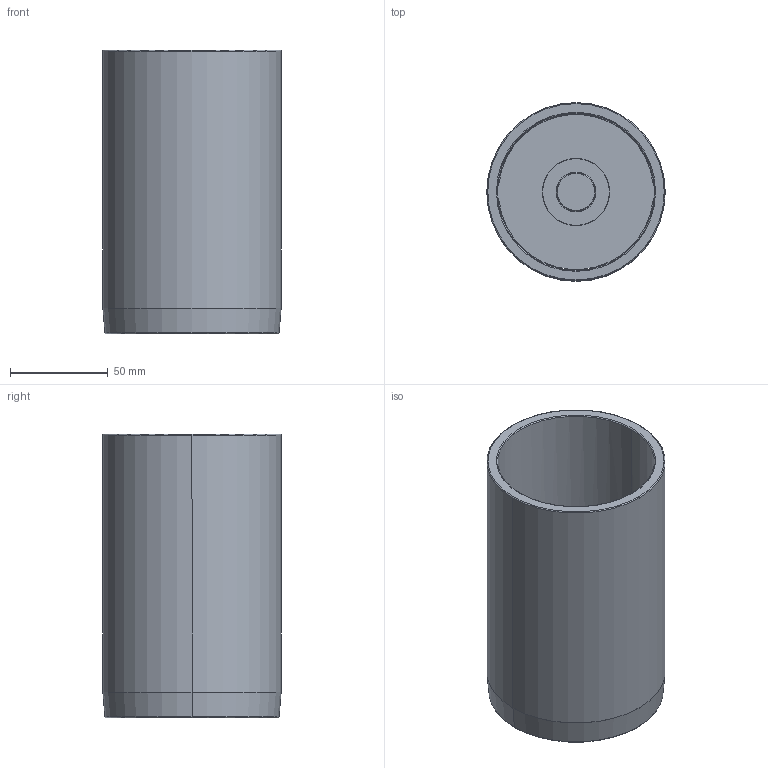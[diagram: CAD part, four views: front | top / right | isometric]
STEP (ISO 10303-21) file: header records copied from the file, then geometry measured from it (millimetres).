
FILE_DESCRIPTION((''),'2;1');
FILE_NAME('C12_080_145.stp','2009-01-29T09:36:15',(''),(''),'Mechanical Desktop 2009','Mechanical Desktop 2009',', , ');
FILE_SCHEMA(('CONFIG_CONTROL_DESIGN'));
Length unit declared in the file: millimetre
Products named in the file (2): Product; blmdl1
Assembly tree (1 placements, depth 2):
  Product
    blmdl1
Bounding box: 91.25 x 91.25 x 145 mm (x, y, z)
Volume: 242838.3 mm3; surface area: 102226.5 mm2
Topology: 5 solids, 5 shells, 79 faces, 200 edges, 134 vertices
Faces by surface type: cylinder 34, plane 29, torus 10, cone 6
Entity records: 2585 total; most frequent: DIRECTION 480, CARTESIAN_POINT 435, ORIENTED_EDGE 400, AXIS2_PLACEMENT_3D 203, EDGE_CURVE 200, VERTEX_POINT 134, CIRCLE 122, EDGE_LOOP 92
